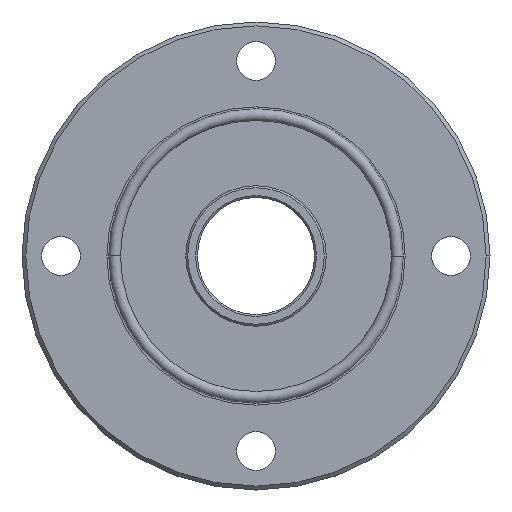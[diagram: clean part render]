
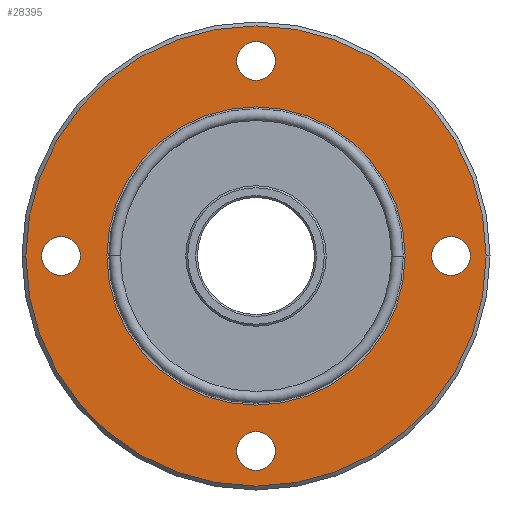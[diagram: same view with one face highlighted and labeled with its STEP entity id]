
A CAD part, left-side view. The second image highlights one B-rep face of the part: STEP entity #28395.
In plain terms, the highlighted planar face has unit normal (-1, 0, 0).
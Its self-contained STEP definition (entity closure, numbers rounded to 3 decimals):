
#15902 = CARTESIAN_POINT ( 'NONE',  ( 0., -38.25, 0. ) ) ;
#15903 = CARTESIAN_POINT ( 'NONE',  ( 0., -55., 0. ) ) ;
#15904 = DIRECTION ( 'NONE',  ( 0., 1., 0. ) ) ;
#15905 = DIRECTION ( 'NONE',  ( -1., 0., 0. ) ) ;
#15906 = CARTESIAN_POINT ( 'NONE',  ( 0., -50., 0. ) ) ;
#15907 = AXIS2_PLACEMENT_3D ( 'NONE', #15906, #15905, #15904 ) ;
#15908 = CIRCLE ( 'NONE', #15907, 5. ) ;
#15909 = CARTESIAN_POINT ( 'NONE',  ( 0., -5., 50. ) ) ;
#15910 = CARTESIAN_POINT ( 'NONE',  ( 0., 38.25, 0. ) ) ;
#15911 = CARTESIAN_POINT ( 'NONE',  ( 0., 5., 50. ) ) ;
#15965 = CARTESIAN_POINT ( 'NONE',  ( 0., 5., -50. ) ) ;
#16032 = DIRECTION ( 'NONE',  ( 0., -1., 0. ) ) ;
#16033 = DIRECTION ( 'NONE',  ( -1., 0., 0. ) ) ;
#16034 = CARTESIAN_POINT ( 'NONE',  ( 0., 50., 0. ) ) ;
#16035 = AXIS2_PLACEMENT_3D ( 'NONE', #16034, #16033, #16032 ) ;
#16036 = CIRCLE ( 'NONE', #16035, 5. ) ;
#16037 = DIRECTION ( 'NONE',  ( 0., 0., 1. ) ) ;
#16038 = DIRECTION ( 'NONE',  ( -1., 0., 0. ) ) ;
#16039 = CARTESIAN_POINT ( 'NONE',  ( 0., 0., -50. ) ) ;
#16040 = AXIS2_PLACEMENT_3D ( 'NONE', #16039, #16038, #16037 ) ;
#16041 = CIRCLE ( 'NONE', #16040, 5. ) ;
#16048 = CARTESIAN_POINT ( 'NONE',  ( 0., 55., 0. ) ) ;
#25145 = CARTESIAN_POINT ( 'NONE',  ( 0., 59., 0. ) ) ;
#25146 = CARTESIAN_POINT ( 'NONE',  ( 0., -59., 0. ) ) ;
#25147 = DIRECTION ( 'NONE',  ( 0., -1., 0. ) ) ;
#25148 = DIRECTION ( 'NONE',  ( -1., 0., 0. ) ) ;
#25149 = CARTESIAN_POINT ( 'NONE',  ( 0., 0., 0. ) ) ;
#25150 = AXIS2_PLACEMENT_3D ( 'NONE', #25149, #25148, #25147 ) ;
#25151 = CIRCLE ( 'NONE', #25150, 59. ) ;
#25287 = CARTESIAN_POINT ( 'NONE',  ( 0., -45., 0. ) ) ;
#25298 = DIRECTION ( 'NONE',  ( 0., -1., 0. ) ) ;
#25299 = DIRECTION ( 'NONE',  ( -1., 0., 0. ) ) ;
#25300 = CARTESIAN_POINT ( 'NONE',  ( 0., 0., 0. ) ) ;
#25301 = AXIS2_PLACEMENT_3D ( 'NONE', #25300, #25299, #25298 ) ;
#25302 = CIRCLE ( 'NONE', #25301, 38.25 ) ;
#25320 = DIRECTION ( 'NONE',  ( 0., 0., -1. ) ) ;
#25321 = DIRECTION ( 'NONE',  ( -1., 0., 0. ) ) ;
#25322 = CARTESIAN_POINT ( 'NONE',  ( 0., 0., 50. ) ) ;
#25323 = AXIS2_PLACEMENT_3D ( 'NONE', #25322, #25321, #25320 ) ;
#25324 = CIRCLE ( 'NONE', #25323, 5. ) ;
#25381 = CARTESIAN_POINT ( 'NONE',  ( 0., 45., 0. ) ) ;
#25383 = CARTESIAN_POINT ( 'NONE',  ( 0., -5., -50. ) ) ;
#28376 = ORIENTED_EDGE ( 'NONE', *, *, #28377, .F. ) ;
#28377 = EDGE_CURVE ( 'NONE', #29812, #29800, #39529, .T. ) ;
#28378 = ORIENTED_EDGE ( 'NONE', *, *, #29731, .F. ) ;
#28379 = EDGE_LOOP ( 'NONE', ( #28380, #28382 ) ) ;
#28380 = ORIENTED_EDGE ( 'NONE', *, *, #28381, .F. ) ;
#28381 = EDGE_CURVE ( 'NONE', #29802, #29798, #39524, .T. ) ;
#28382 = ORIENTED_EDGE ( 'NONE', *, *, #29748, .F. ) ;
#28383 = EDGE_LOOP ( 'NONE', ( #28384, #28386 ) ) ;
#28384 = ORIENTED_EDGE ( 'NONE', *, *, #28385, .F. ) ;
#28385 = EDGE_CURVE ( 'NONE', #29810, #29739, #39520, .T. ) ;
#28386 = ORIENTED_EDGE ( 'NONE', *, *, #29808, .F. ) ;
#28387 = EDGE_LOOP ( 'NONE', ( #28443, #28445 ) ) ;
#28395 = ADVANCED_FACE ( 'NONE', ( #39505, #39504, #39503, #39502, #39501, #39500 ), #39499, .T. ) ;
#28396 = EDGE_LOOP ( 'NONE', ( #28397, #28399 ) ) ;
#28397 = ORIENTED_EDGE ( 'NONE', *, *, #28398, .T. ) ;
#28398 = EDGE_CURVE ( 'NONE', #29651, #29650, #39546, .T. ) ;
#28399 = ORIENTED_EDGE ( 'NONE', *, *, #29649, .T. ) ;
#28400 = EDGE_LOOP ( 'NONE', ( #28376, #28378 ) ) ;
#28443 = ORIENTED_EDGE ( 'NONE', *, *, #28444, .F. ) ;
#28444 = EDGE_CURVE ( 'NONE', #29772, #29824, #39696, .T. ) ;
#28445 = ORIENTED_EDGE ( 'NONE', *, *, #29905, .F. ) ;
#28446 = EDGE_LOOP ( 'NONE', ( #28447, #28449 ) ) ;
#28447 = ORIENTED_EDGE ( 'NONE', *, *, #28448, .F. ) ;
#28448 = EDGE_CURVE ( 'NONE', #29777, #29900, #39691, .T. ) ;
#28449 = ORIENTED_EDGE ( 'NONE', *, *, #29910, .F. ) ;
#29649 = EDGE_CURVE ( 'NONE', #29650, #29651, #25151, .T. ) ;
#29650 = VERTEX_POINT ( 'NONE', #25146 ) ;
#29651 = VERTEX_POINT ( 'NONE', #25145 ) ;
#29731 = EDGE_CURVE ( 'NONE', #29800, #29812, #25302, .T. ) ;
#29739 = VERTEX_POINT ( 'NONE', #25287 ) ;
#29748 = EDGE_CURVE ( 'NONE', #29798, #29802, #25324, .T. ) ;
#29772 = VERTEX_POINT ( 'NONE', #25383 ) ;
#29777 = VERTEX_POINT ( 'NONE', #25381 ) ;
#29798 = VERTEX_POINT ( 'NONE', #15911 ) ;
#29800 = VERTEX_POINT ( 'NONE', #15910 ) ;
#29802 = VERTEX_POINT ( 'NONE', #15909 ) ;
#29808 = EDGE_CURVE ( 'NONE', #29739, #29810, #15908, .T. ) ;
#29810 = VERTEX_POINT ( 'NONE', #15903 ) ;
#29812 = VERTEX_POINT ( 'NONE', #15902 ) ;
#29824 = VERTEX_POINT ( 'NONE', #15965 ) ;
#29900 = VERTEX_POINT ( 'NONE', #16048 ) ;
#29905 = EDGE_CURVE ( 'NONE', #29824, #29772, #16041, .T. ) ;
#29910 = EDGE_CURVE ( 'NONE', #29900, #29777, #16036, .T. ) ;
#39496 = DIRECTION ( 'NONE',  ( -1., 0., 0. ) ) ;
#39497 = CARTESIAN_POINT ( 'NONE',  ( 0., 0., 0. ) ) ;
#39498 = AXIS2_PLACEMENT_3D ( 'NONE', #39497, #39496, #39548 ) ;
#39499 = PLANE ( 'NONE',  #39498 ) ;
#39500 = FACE_BOUND ( 'NONE', #28446, .T. ) ;
#39501 = FACE_BOUND ( 'NONE', #28387, .T. ) ;
#39502 = FACE_BOUND ( 'NONE', #28383, .T. ) ;
#39503 = FACE_BOUND ( 'NONE', #28379, .T. ) ;
#39504 = FACE_BOUND ( 'NONE', #28400, .T. ) ;
#39505 = FACE_OUTER_BOUND ( 'NONE', #28396, .T. ) ;
#39516 = DIRECTION ( 'NONE',  ( 0., 1., 0. ) ) ;
#39517 = DIRECTION ( 'NONE',  ( -1., 0., 0. ) ) ;
#39518 = CARTESIAN_POINT ( 'NONE',  ( 0., -50., 0. ) ) ;
#39519 = AXIS2_PLACEMENT_3D ( 'NONE', #39518, #39517, #39516 ) ;
#39520 = CIRCLE ( 'NONE', #39519, 5. ) ;
#39521 = DIRECTION ( 'NONE',  ( 0., 0., -1. ) ) ;
#39522 = DIRECTION ( 'NONE',  ( -1., 0., 0. ) ) ;
#39523 = AXIS2_PLACEMENT_3D ( 'NONE', #39530, #39522, #39521 ) ;
#39524 = CIRCLE ( 'NONE', #39523, 5. ) ;
#39525 = DIRECTION ( 'NONE',  ( 0., -1., 0. ) ) ;
#39526 = DIRECTION ( 'NONE',  ( -1., 0., 0. ) ) ;
#39527 = CARTESIAN_POINT ( 'NONE',  ( 0., 0., 0. ) ) ;
#39528 = AXIS2_PLACEMENT_3D ( 'NONE', #39527, #39526, #39525 ) ;
#39529 = CIRCLE ( 'NONE', #39528, 38.25 ) ;
#39530 = CARTESIAN_POINT ( 'NONE',  ( 0., 0., 50. ) ) ;
#39542 = DIRECTION ( 'NONE',  ( 0., -1., 0. ) ) ;
#39543 = DIRECTION ( 'NONE',  ( -1., 0., 0. ) ) ;
#39544 = CARTESIAN_POINT ( 'NONE',  ( 0., 0., 0. ) ) ;
#39545 = AXIS2_PLACEMENT_3D ( 'NONE', #39544, #39543, #39542 ) ;
#39546 = CIRCLE ( 'NONE', #39545, 59. ) ;
#39548 = DIRECTION ( 'NONE',  ( 0., -1., 0. ) ) ;
#39687 = DIRECTION ( 'NONE',  ( 0., -1., 0. ) ) ;
#39688 = DIRECTION ( 'NONE',  ( -1., 0., 0. ) ) ;
#39689 = CARTESIAN_POINT ( 'NONE',  ( 0., 50., 0. ) ) ;
#39690 = AXIS2_PLACEMENT_3D ( 'NONE', #39689, #39688, #39687 ) ;
#39691 = CIRCLE ( 'NONE', #39690, 5. ) ;
#39692 = DIRECTION ( 'NONE',  ( 0., 0., 1. ) ) ;
#39693 = DIRECTION ( 'NONE',  ( -1., 0., 0. ) ) ;
#39694 = CARTESIAN_POINT ( 'NONE',  ( 0., 0., -50. ) ) ;
#39695 = AXIS2_PLACEMENT_3D ( 'NONE', #39694, #39693, #39692 ) ;
#39696 = CIRCLE ( 'NONE', #39695, 5. ) ;
